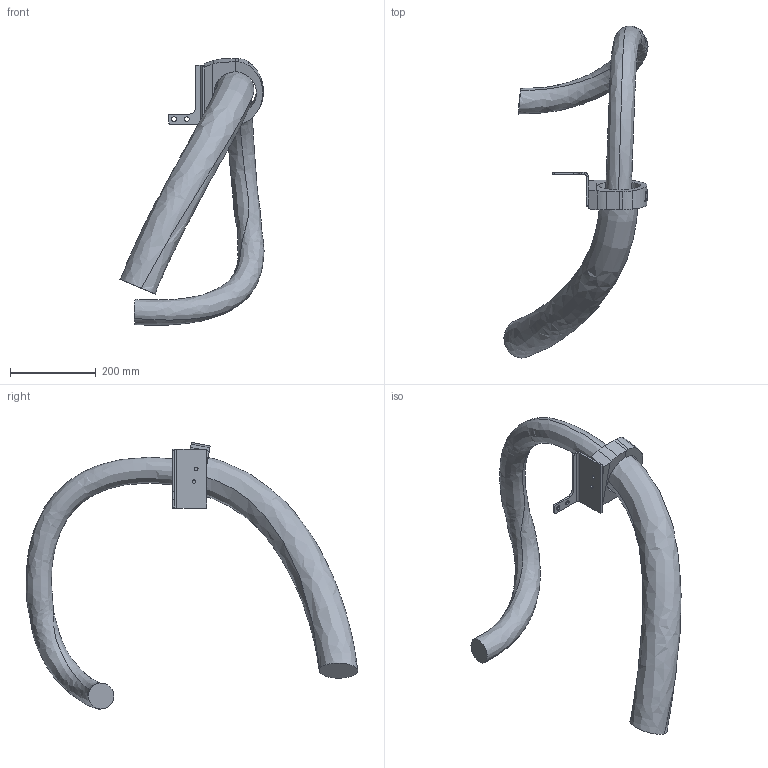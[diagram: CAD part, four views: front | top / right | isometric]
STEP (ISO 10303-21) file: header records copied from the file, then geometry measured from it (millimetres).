
FILE_DESCRIPTION (( 'STEP AP214' ), '1' );
FILE_NAME ('IRB6700-SW6_145-320_IRC5_rev01_LINK03a_CABLE.STEP', '2021-07-08T09:22:57', ( '' ), ( '' ), 'SwSTEP 2.0', 'SolidWorks 2020', '' );
FILE_SCHEMA (( 'AUTOMOTIVE_DESIGN' ));
Length unit declared in the file: millimetre
Products named in the file (1): IRB6700-SW6_145-320_IRC5_rev01_LINK03a_CABLE
Bounding box: 336.82 x 775.86 x 624.06 mm (x, y, z)
Volume: 7611776.8 mm3; surface area: 468965.5 mm2
Topology: 1 solids, 1 shells, 234 faces, 631 edges, 410 vertices
Faces by surface type: plane 127, bspline 77, cylinder 30
Entity records: 13265 total; most frequent: CARTESIAN_POINT 7851, ORIENTED_EDGE 1262, DIRECTION 817, EDGE_CURVE 631, VERTEX_POINT 410, VECTOR 375, LINE 375, EDGE_LOOP 257
